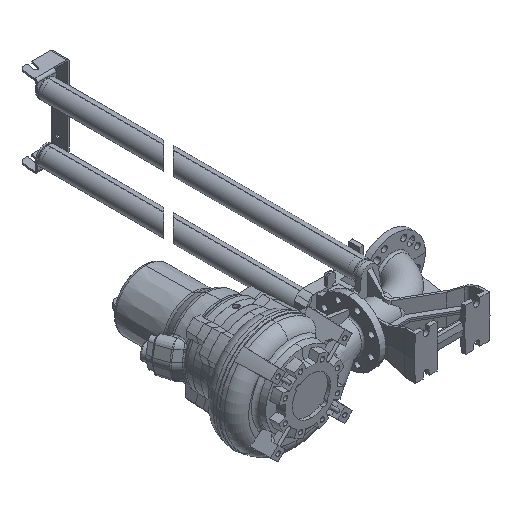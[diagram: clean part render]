
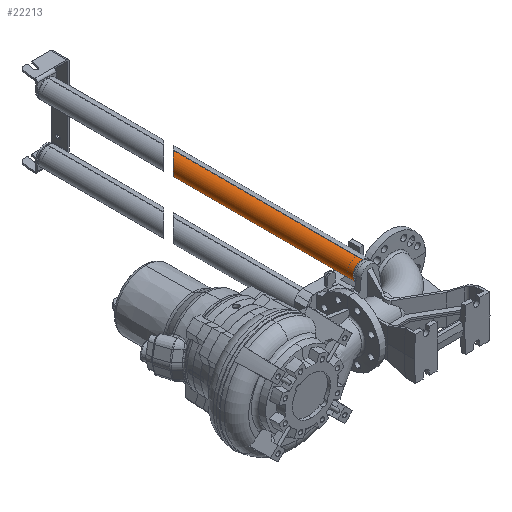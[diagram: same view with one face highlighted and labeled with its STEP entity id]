
A CAD part, isometric view. The second image highlights one B-rep face of the part: STEP entity #22213.
In plain terms, the highlighted cylindrical face has radius 30.15 mm (diameter 60.3 mm), a partial arc.
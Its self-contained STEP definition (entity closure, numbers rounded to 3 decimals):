
#734 = EDGE_CURVE ( 'NONE', #30373, #26096, #39527, .T. ) ;
#765 = VERTEX_POINT ( 'NONE', #11150 ) ;
#6394 = CARTESIAN_POINT ( 'NONE',  ( 273.2, 464.23, 62.35 ) ) ;
#6466 = EDGE_CURVE ( 'NONE', #26096, #765, #12503, .T. ) ;
#6774 = DIRECTION ( 'NONE',  ( 0., 0., -1. ) ) ;
#8307 = CARTESIAN_POINT ( 'NONE',  ( 333.5, -57.029, 122.65 ) ) ;
#8890 = EDGE_LOOP ( 'NONE', ( #12048, #16817, #21085, #35964 ) ) ;
#9220 = CARTESIAN_POINT ( 'NONE',  ( 333.5, -77.029, 122.65 ) ) ;
#9246 = AXIS2_PLACEMENT_3D ( 'NONE', #23867, #26885, #37101 ) ;
#9823 = CARTESIAN_POINT ( 'NONE',  ( 333.5, 524.53, 62.35 ) ) ;
#9836 = CYLINDRICAL_SURFACE ( 'NONE', #38457, 30.15 ) ;
#11150 = CARTESIAN_POINT ( 'NONE',  ( 333.5, -77.029, 62.35 ) ) ;
#12048 = ORIENTED_EDGE ( 'NONE', *, *, #42127, .F. ) ;
#12503 = LINE ( 'NONE', #38354, #40938 ) ;
#12699 = DIRECTION ( 'NONE',  ( 0., -1., 0. ) ) ;
#13328 = FACE_OUTER_BOUND ( 'NONE', #8890, .T. ) ;
#14870 = DIRECTION ( 'NONE',  ( 0., -1., 0. ) ) ;
#15491 = CARTESIAN_POINT ( 'NONE',  ( 333.5, 524.53, 122.65 ) ) ;
#16817 = ORIENTED_EDGE ( 'NONE', *, *, #734, .T. ) ;
#16851 = CARTESIAN_POINT ( 'NONE',  ( 273.2, 464.23, 122.65 ) ) ;
#21085 = ORIENTED_EDGE ( 'NONE', *, *, #6466, .T. ) ;
#21880 = DIRECTION ( 'NONE',  ( 0., -1., 0. ) ) ;
#22213 = ADVANCED_FACE ( 'NONE', ( #13328 ), #9836, .T. ) ;
#23867 = CARTESIAN_POINT ( 'NONE',  ( 333.5, -77.029, 92.5 ) ) ;
#26096 = VERTEX_POINT ( 'NONE', #9823 ) ;
#26561 = CARTESIAN_POINT ( 'NONE',  ( 333.5, -57.029, 92.5 ) ) ;
#26885 = DIRECTION ( 'NONE',  ( 0., -1., 0. ) ) ;
#28673 = CIRCLE ( 'NONE', #9246, 30.15 ) ;
#29660 = CARTESIAN_POINT ( 'NONE',  ( 333.5, 524.53, 62.35 ) ) ;
#30373 = VERTEX_POINT ( 'NONE', #15491 ) ;
#30766 = EDGE_CURVE ( 'NONE', #37230, #765, #28673, .T. ) ;
#33834 = VECTOR ( 'NONE', #14870, 1000. ) ;
#35964 = ORIENTED_EDGE ( 'NONE', *, *, #30766, .F. ) ;
#36178 = CARTESIAN_POINT ( 'NONE',  ( 333.5, 524.53, 122.65 ) ) ;
#37101 = DIRECTION ( 'NONE',  ( 0., 0., -1. ) ) ;
#37230 = VERTEX_POINT ( 'NONE', #9220 ) ;
#38354 = CARTESIAN_POINT ( 'NONE',  ( 333.5, -57.029, 62.35 ) ) ;
#38457 = AXIS2_PLACEMENT_3D ( 'NONE', #26561, #12699, #6774 ) ;
#39527 =( BOUNDED_CURVE ( )  B_SPLINE_CURVE ( 3, ( #36178, #16851, #6394, #29660 ),
 .UNSPECIFIED., .F., .T. ) 
 B_SPLINE_CURVE_WITH_KNOTS ( ( 4, 4 ),
 ( 4.712, 7.854 ),
 .UNSPECIFIED. ) 
 CURVE ( )  GEOMETRIC_REPRESENTATION_ITEM ( )  RATIONAL_B_SPLINE_CURVE ( ( 1., 0.333, 0.333, 1. ) ) 
 REPRESENTATION_ITEM ( '' )  );
#40938 = VECTOR ( 'NONE', #21880, 1000. ) ;
#41138 = LINE ( 'NONE', #8307, #33834 ) ;
#42127 = EDGE_CURVE ( 'NONE', #30373, #37230, #41138, .T. ) ;
